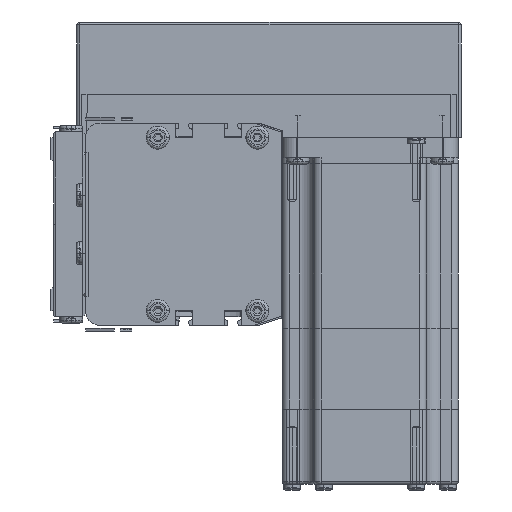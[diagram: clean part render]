
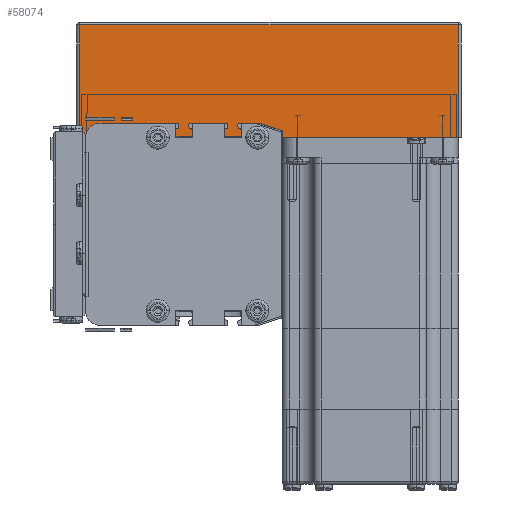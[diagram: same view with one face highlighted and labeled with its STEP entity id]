
A CAD part, left-side view. The second image highlights one B-rep face of the part: STEP entity #58074.
In plain terms, the highlighted planar face has unit normal (-1, 0, 0) as drawn and (0, 1, 0) by its records, which use the part's own axes.
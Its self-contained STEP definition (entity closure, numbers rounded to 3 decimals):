
#276 = CARTESIAN_POINT ( 'NONE',  ( 132., 62., 0. ) ) ;
#572 = CARTESIAN_POINT ( 'NONE',  ( 132., 62., 39. ) ) ;
#52039 = DIRECTION ( 'NONE',  ( -1., 0., 0. ) ) ;
#52040 = VECTOR ( 'NONE', #52039, 1000. ) ;
#52041 = CARTESIAN_POINT ( 'NONE',  ( 0., 62., 0. ) ) ;
#52055 = LINE ( 'NONE', #52041, #52040 ) ;
#52086 = CARTESIAN_POINT ( 'NONE',  ( 1., 62., 0. ) ) ;
#53576 = DIRECTION ( 'NONE',  ( 1., 0., 0. ) ) ;
#53577 = VECTOR ( 'NONE', #53576, 1000. ) ;
#53578 = CARTESIAN_POINT ( 'NONE',  ( 0., 62., 39. ) ) ;
#53579 = LINE ( 'NONE', #53578, #53577 ) ;
#53580 = FACE_OUTER_BOUND ( 'NONE', #58175, .T. ) ;
#53581 = CARTESIAN_POINT ( 'NONE',  ( 0., 62., 40. ) ) ;
#53582 = DIRECTION ( 'NONE',  ( 0., 0., 1. ) ) ;
#53583 = VECTOR ( 'NONE', #53582, 1000. ) ;
#53584 = CARTESIAN_POINT ( 'NONE',  ( 1., 62., 40. ) ) ;
#53585 = LINE ( 'NONE', #53584, #53583 ) ;
#53588 = DIRECTION ( 'NONE',  ( 0., -1., 0. ) ) ;
#53631 = DIRECTION ( 'NONE',  ( 0., 0., -1. ) ) ;
#53634 = PLANE ( 'NONE',  #53642 ) ;
#53637 = DIRECTION ( 'NONE',  ( 0., 0., -1. ) ) ;
#53638 = VECTOR ( 'NONE', #53637, 1000. ) ;
#53639 = CARTESIAN_POINT ( 'NONE',  ( 132., 62., 40. ) ) ;
#53640 = LINE ( 'NONE', #53639, #53638 ) ;
#53642 = AXIS2_PLACEMENT_3D ( 'NONE', #53581, #53588, #53631 ) ;
#57544 = VERTEX_POINT ( 'NONE', #276 ) ;
#57592 = EDGE_CURVE ( 'NONE', #57544, #57614, #52055, .T. ) ;
#57614 = VERTEX_POINT ( 'NONE', #52086 ) ;
#58061 = ORIENTED_EDGE ( 'NONE', *, *, #58072, .T. ) ;
#58062 = ORIENTED_EDGE ( 'NONE', *, *, #58070, .T. ) ;
#58069 = EDGE_CURVE ( 'NONE', #57614, #58546, #53585, .T. ) ;
#58070 = EDGE_CURVE ( 'NONE', #58546, #58300, #53579, .T. ) ;
#58072 = EDGE_CURVE ( 'NONE', #58300, #57544, #53640, .T. ) ;
#58074 = ADVANCED_FACE ( 'NONE', ( #53580 ), #53634, .F. ) ;
#58075 = ORIENTED_EDGE ( 'NONE', *, *, #57592, .T. ) ;
#58175 = EDGE_LOOP ( 'NONE', ( #58062, #58061, #58075, #58306 ) ) ;
#58300 = VERTEX_POINT ( 'NONE', #572 ) ;
#58306 = ORIENTED_EDGE ( 'NONE', *, *, #58069, .T. ) ;
#58546 = VERTEX_POINT ( 'NONE', #88770 ) ;
#88770 = CARTESIAN_POINT ( 'NONE',  ( 1., 62., 39. ) ) ;
